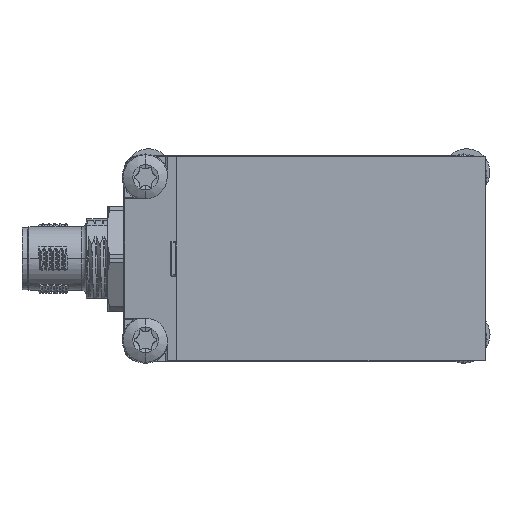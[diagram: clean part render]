
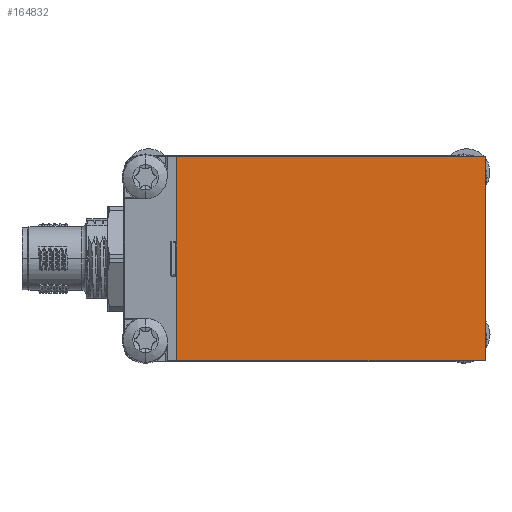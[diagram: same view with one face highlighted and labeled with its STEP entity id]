
A CAD part, front view. The second image highlights one B-rep face of the part: STEP entity #164832.
In plain terms, the highlighted planar face has unit normal (0, -1, 0).
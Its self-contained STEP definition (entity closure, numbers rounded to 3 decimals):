
#2652 = LINE ( 'NONE', #62636, #102265 ) ;
#3870 = CARTESIAN_POINT ( 'NONE',  ( 0., -17.5, 17.5 ) ) ;
#24020 = ORIENTED_EDGE ( 'NONE', *, *, #79378, .T. ) ;
#24808 = CARTESIAN_POINT ( 'NONE',  ( 0., -17.5, 17.5 ) ) ;
#26525 = ORIENTED_EDGE ( 'NONE', *, *, #136159, .F. ) ;
#26880 = CARTESIAN_POINT ( 'NONE',  ( -53., -17.5, 17.5 ) ) ;
#32776 = DIRECTION ( 'NONE',  ( 0., 1., 0. ) ) ;
#42451 = ORIENTED_EDGE ( 'NONE', *, *, #114394, .F. ) ;
#52167 = CARTESIAN_POINT ( 'NONE',  ( -53., -17.5, -17.5 ) ) ;
#62636 = CARTESIAN_POINT ( 'NONE',  ( 1.414, -17.5, -17.5 ) ) ;
#63800 = CARTESIAN_POINT ( 'NONE',  ( 0., -17.5, -17.5 ) ) ;
#65863 = CARTESIAN_POINT ( 'NONE',  ( -53., -17.5, 17.5 ) ) ;
#79378 = EDGE_CURVE ( 'NONE', #160480, #85852, #162708, .T. ) ;
#85852 = VERTEX_POINT ( 'NONE', #26880 ) ;
#99441 = VERTEX_POINT ( 'NONE', #52167 ) ;
#102265 = VECTOR ( 'NONE', #212440, 1000. ) ;
#102572 = FACE_OUTER_BOUND ( 'NONE', #172775, .T. ) ;
#112902 = VECTOR ( 'NONE', #143478, 1000. ) ;
#114394 = EDGE_CURVE ( 'NONE', #160480, #134152, #128949, .T. ) ;
#123280 = AXIS2_PLACEMENT_3D ( 'NONE', #144983, #32776, #163860 ) ;
#128949 = LINE ( 'NONE', #24808, #228456 ) ;
#134152 = VERTEX_POINT ( 'NONE', #63800 ) ;
#136159 = EDGE_CURVE ( 'NONE', #134152, #99441, #2652, .T. ) ;
#140644 = ORIENTED_EDGE ( 'NONE', *, *, #150900, .T. ) ;
#141158 = LINE ( 'NONE', #65863, #185037 ) ;
#142672 = CARTESIAN_POINT ( 'NONE',  ( 1.414, -17.5, 17.5 ) ) ;
#143478 = DIRECTION ( 'NONE',  ( -1., 0., 0. ) ) ;
#144983 = CARTESIAN_POINT ( 'NONE',  ( 0., -17.5, 17.5 ) ) ;
#150900 = EDGE_CURVE ( 'NONE', #85852, #99441, #141158, .T. ) ;
#155837 = DIRECTION ( 'NONE',  ( 0., 0., -1. ) ) ;
#160480 = VERTEX_POINT ( 'NONE', #3870 ) ;
#162708 = LINE ( 'NONE', #142672, #112902 ) ;
#163059 = PLANE ( 'NONE',  #123280 ) ;
#163860 = DIRECTION ( 'NONE',  ( 0., 0., 1. ) ) ;
#164832 = ADVANCED_FACE ( 'NONE', ( #102572 ), #163059, .F. ) ;
#172775 = EDGE_LOOP ( 'NONE', ( #140644, #26525, #42451, #24020 ) ) ;
#185037 = VECTOR ( 'NONE', #215667, 1000. ) ;
#212440 = DIRECTION ( 'NONE',  ( -1., 0., 0. ) ) ;
#215667 = DIRECTION ( 'NONE',  ( 0., 0., -1. ) ) ;
#228456 = VECTOR ( 'NONE', #155837, 1000. ) ;
